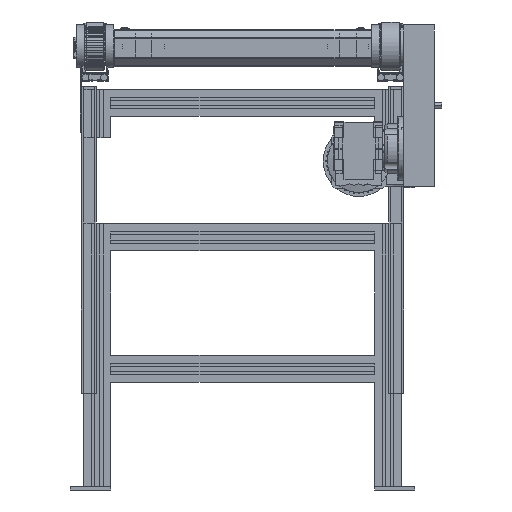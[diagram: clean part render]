
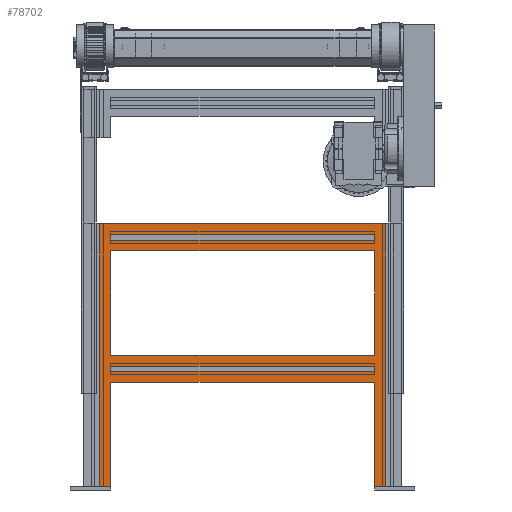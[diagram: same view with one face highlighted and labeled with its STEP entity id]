
A CAD part, front view. The second image highlights one B-rep face of the part: STEP entity #78702.
In plain terms, the highlighted planar face has unit normal (0, -1, 0).
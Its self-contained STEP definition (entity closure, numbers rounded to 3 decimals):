
#602=FACE_BOUND('',#10364,.T.);
#603=FACE_BOUND('',#10365,.T.);
#604=FACE_BOUND('',#10366,.T.);
#6465=FACE_OUTER_BOUND('',#10363,.T.);
#10363=EDGE_LOOP('',(#58825,#58826,#58827,#58828,#58829,#58830,#58831,#58832));
#10364=EDGE_LOOP('',(#58833,#58834,#58835,#58836));
#10365=EDGE_LOOP('',(#58837,#58838,#58839,#58840));
#10366=EDGE_LOOP('',(#58841,#58842,#58843,#58844));
#16245=LINE('',#118418,#24507);
#16458=LINE('',#118866,#24720);
#16464=LINE('',#118880,#24726);
#16480=LINE('',#118913,#24742);
#16504=LINE('',#118964,#24766);
#16654=LINE('',#119260,#24916);
#16681=LINE('',#119313,#24943);
#16882=LINE('',#119711,#25144);
#16894=LINE('',#119735,#25156);
#16897=LINE('',#119741,#25159);
#16944=LINE('',#119834,#25206);
#16948=LINE('',#119842,#25210);
#16951=LINE('',#119847,#25213);
#16960=LINE('',#119862,#25222);
#16971=LINE('',#119884,#25233);
#16983=LINE('',#119908,#25245);
#17025=LINE('',#119989,#25287);
#17029=LINE('',#119996,#25291);
#17126=LINE('',#120186,#25388);
#17127=LINE('',#120188,#25389);
#24507=VECTOR('',#95705,19.95);
#24720=VECTOR('',#96048,194.5);
#24726=VECTOR('',#96058,10.1);
#24742=VECTOR('',#96078,194.5);
#24766=VECTOR('',#96112,10.1);
#24916=VECTOR('',#96348,489.);
#24943=VECTOR('',#96395,19.95);
#25144=VECTOR('',#96766,491.);
#25156=VECTOR('',#96790,491.);
#25159=VECTOR('',#96795,491.);
#25206=VECTOR('',#96882,491.);
#25210=VECTOR('',#96892,194.5);
#25213=VECTOR('',#96897,10.1);
#25222=VECTOR('',#96914,194.5);
#25233=VECTOR('',#96931,491.);
#25245=VECTOR('',#96955,491.);
#25287=VECTOR('',#97035,491.);
#25291=VECTOR('',#97045,10.1);
#25388=VECTOR('',#97228,489.);
#25389=VECTOR('',#97231,530.9);
#32558=VERTEX_POINT('',#118416);
#32559=VERTEX_POINT('',#118417);
#32726=VERTEX_POINT('',#118859);
#32729=VERTEX_POINT('',#118864);
#32734=VERTEX_POINT('',#118877);
#32735=VERTEX_POINT('',#118879);
#32749=VERTEX_POINT('',#118910);
#32750=VERTEX_POINT('',#118912);
#32770=VERTEX_POINT('',#118960);
#32772=VERTEX_POINT('',#118963);
#32874=VERTEX_POINT('',#119256);
#32875=VERTEX_POINT('',#119258);
#33003=VERTEX_POINT('',#119708);
#33009=VERTEX_POINT('',#119733);
#33011=VERTEX_POINT('',#119738);
#33036=VERTEX_POINT('',#119831);
#33038=VERTEX_POINT('',#119841);
#33049=VERTEX_POINT('',#119881);
#33055=VERTEX_POINT('',#119906);
#33125=VERTEX_POINT('',#120184);
#41558=EDGE_CURVE('',#32558,#32559,#16245,.T.);
#41781=EDGE_CURVE('',#32726,#32729,#16458,.T.);
#41787=EDGE_CURVE('',#32735,#32734,#16464,.T.);
#41803=EDGE_CURVE('',#32750,#32749,#16480,.T.);
#41827=EDGE_CURVE('',#32772,#32770,#16504,.T.);
#41977=EDGE_CURVE('',#32875,#32874,#16654,.T.);
#42004=EDGE_CURVE('',#32875,#32750,#16681,.T.);
#42207=EDGE_CURVE('',#32735,#33003,#16882,.T.);
#42219=EDGE_CURVE('',#32734,#33009,#16894,.T.);
#42222=EDGE_CURVE('',#32726,#33011,#16897,.T.);
#42269=EDGE_CURVE('',#32749,#33036,#16944,.T.);
#42273=EDGE_CURVE('',#33011,#33038,#16948,.T.);
#42276=EDGE_CURVE('',#33003,#33009,#16951,.T.);
#42285=EDGE_CURVE('',#32559,#33036,#16960,.T.);
#42296=EDGE_CURVE('',#32772,#33049,#16971,.T.);
#42308=EDGE_CURVE('',#32770,#33055,#16983,.T.);
#42350=EDGE_CURVE('',#32729,#33038,#17025,.T.);
#42354=EDGE_CURVE('',#33049,#33055,#17029,.T.);
#42451=EDGE_CURVE('',#32558,#33125,#17126,.T.);
#42452=EDGE_CURVE('',#32874,#33125,#17127,.T.);
#58825=ORIENTED_EDGE('',*,*,#42269,.T.);
#58826=ORIENTED_EDGE('',*,*,#42285,.F.);
#58827=ORIENTED_EDGE('',*,*,#41558,.F.);
#58828=ORIENTED_EDGE('',*,*,#42451,.T.);
#58829=ORIENTED_EDGE('',*,*,#42452,.F.);
#58830=ORIENTED_EDGE('',*,*,#41977,.F.);
#58831=ORIENTED_EDGE('',*,*,#42004,.T.);
#58832=ORIENTED_EDGE('',*,*,#41803,.T.);
#58833=ORIENTED_EDGE('',*,*,#42219,.T.);
#58834=ORIENTED_EDGE('',*,*,#42276,.F.);
#58835=ORIENTED_EDGE('',*,*,#42207,.F.);
#58836=ORIENTED_EDGE('',*,*,#41787,.T.);
#58837=ORIENTED_EDGE('',*,*,#42308,.T.);
#58838=ORIENTED_EDGE('',*,*,#42354,.F.);
#58839=ORIENTED_EDGE('',*,*,#42296,.F.);
#58840=ORIENTED_EDGE('',*,*,#41827,.T.);
#58841=ORIENTED_EDGE('',*,*,#42222,.F.);
#58842=ORIENTED_EDGE('',*,*,#41781,.T.);
#58843=ORIENTED_EDGE('',*,*,#42350,.T.);
#58844=ORIENTED_EDGE('',*,*,#42273,.F.);
#71729=PLANE('',#83679);
#78702=ADVANCED_FACE('',(#6465,#602,#603,#604),#71729,.T.);
#83679=AXIS2_PLACEMENT_3D('',#120187,#97229,#97230);
#95705=DIRECTION('',(-1.,0.,0.));
#96048=DIRECTION('',(0.,0.,1.));
#96058=DIRECTION('',(0.,0.,1.));
#96078=DIRECTION('',(0.,0.,1.));
#96112=DIRECTION('',(0.,0.,1.));
#96348=DIRECTION('',(0.,0.,1.));
#96395=DIRECTION('',(1.,0.,0.));
#96766=DIRECTION('',(1.,0.,0.));
#96790=DIRECTION('',(1.,0.,0.));
#96795=DIRECTION('',(1.,0.,0.));
#96882=DIRECTION('',(1.,0.,0.));
#96892=DIRECTION('',(0.,0.,1.));
#96897=DIRECTION('',(0.,0.,1.));
#96914=DIRECTION('',(0.,0.,1.));
#96931=DIRECTION('',(1.,0.,0.));
#96955=DIRECTION('',(1.,0.,0.));
#97035=DIRECTION('',(1.,0.,0.));
#97045=DIRECTION('',(0.,0.,1.));
#97228=DIRECTION('',(0.,0.,1.));
#97229=DIRECTION('center_axis',(0.,-1.,0.));
#97230=DIRECTION('ref_axis',(0.,0.,-1.));
#97231=DIRECTION('',(1.,0.,0.));
#118416=CARTESIAN_POINT('',(265.45,-845.,-819.));
#118417=CARTESIAN_POINT('',(245.5,-845.,-819.));
#118418=CARTESIAN_POINT('',(274.225,-845.,-819.));
#118859=CARTESIAN_POINT('',(-245.5,-845.,-574.5));
#118864=CARTESIAN_POINT('',(-245.5,-845.,-380.));
#118866=CARTESIAN_POINT('',(-245.5,-845.,-819.));
#118877=CARTESIAN_POINT('',(-245.5,-845.,-594.45));
#118879=CARTESIAN_POINT('',(-245.5,-845.,-604.55));
#118880=CARTESIAN_POINT('',(-245.5,-845.,-819.));
#118910=CARTESIAN_POINT('',(-245.5,-845.,-624.5));
#118912=CARTESIAN_POINT('',(-245.5,-845.,-819.));
#118913=CARTESIAN_POINT('',(-245.5,-845.,-819.));
#118960=CARTESIAN_POINT('',(-245.5,-845.,-349.95));
#118963=CARTESIAN_POINT('',(-245.5,-845.,-360.05));
#118964=CARTESIAN_POINT('',(-245.5,-845.,-819.));
#119256=CARTESIAN_POINT('',(-265.45,-845.,-330.));
#119258=CARTESIAN_POINT('',(-265.45,-845.,-819.));
#119260=CARTESIAN_POINT('',(-265.45,-845.,-819.));
#119313=CARTESIAN_POINT('',(-274.225,-845.,-819.));
#119708=CARTESIAN_POINT('',(245.5,-845.,-604.55));
#119711=CARTESIAN_POINT('',(0.,-845.,-604.55));
#119733=CARTESIAN_POINT('',(245.5,-845.,-594.45));
#119735=CARTESIAN_POINT('',(0.,-845.,-594.45));
#119738=CARTESIAN_POINT('',(245.5,-845.,-574.5));
#119741=CARTESIAN_POINT('',(0.,-845.,-574.5));
#119831=CARTESIAN_POINT('',(245.5,-845.,-624.5));
#119834=CARTESIAN_POINT('',(0.,-845.,-624.5));
#119841=CARTESIAN_POINT('',(245.5,-845.,-380.));
#119842=CARTESIAN_POINT('',(245.5,-845.,-819.));
#119847=CARTESIAN_POINT('',(245.5,-845.,-819.));
#119862=CARTESIAN_POINT('',(245.5,-845.,-819.));
#119881=CARTESIAN_POINT('',(245.5,-845.,-360.05));
#119884=CARTESIAN_POINT('',(0.,-845.,-360.05));
#119906=CARTESIAN_POINT('',(245.5,-845.,-349.95));
#119908=CARTESIAN_POINT('',(0.,-845.,-349.95));
#119989=CARTESIAN_POINT('',(0.,-845.,-380.));
#119996=CARTESIAN_POINT('',(245.5,-845.,-819.));
#120184=CARTESIAN_POINT('',(265.45,-845.,-330.));
#120186=CARTESIAN_POINT('',(265.45,-845.,-819.));
#120187=CARTESIAN_POINT('Origin',(265.45,-845.,-819.));
#120188=CARTESIAN_POINT('',(0.,-845.,-330.));
